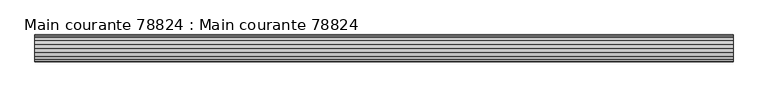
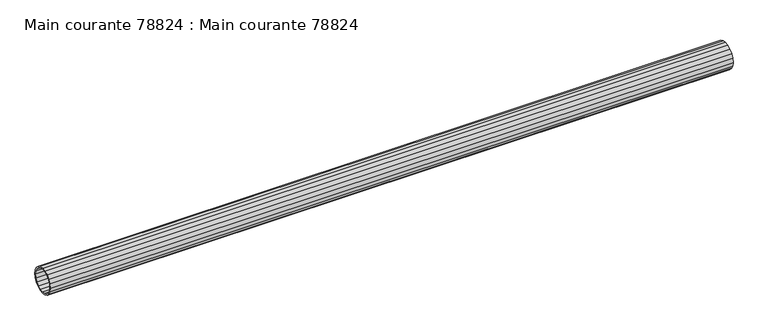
"""IFC4 building model written with IfcOpenShell, lengths in millimetres: beam geometry, Main courante 78824 : Main courante 78824."""

from ifc_helpers import new_model, si_unit, frame, origin, place, context, project, spatial, polyline, outline, extrude, source, transform, mapped, element, save


def main_courante_78824_main_courante_78824_5afea3ef(model_context):
    return source(origin(), model_context, "Body", "SweptSolid", [
        extrude(outline(polyline([(-24939.3127604, 8787.9680149), (-24931.85, 8789.15), (-24924.3872396, 8787.9680149), (-24917.6549862, 8784.5377604), (-24912.3122396, 8779.1950138), (-24908.8819851, 8772.4627604), (-24907.7, 8765.0), (-24908.8819851, 8757.5372396), (-24912.3122396, 8750.8049862), (-24917.6549862, 8745.4622396), (-24924.3872396, 8742.0319851), (-24931.85, 8740.85), (-24939.3127604, 8742.0319851), (-24946.0450138, 8745.4622396), (-24951.3877604, 8750.8049862), (-24954.8180149, 8757.5372396), (-24956.0, 8765.0), (-24954.8180149, 8772.4627604), (-24951.3877604, 8779.1950138), (-24946.0450138, 8784.5377604), (-24939.3127604, 8787.9680149)]), holes=[polyline([(-24911.2596264, 8771.6902179), (-24914.3347821, 8777.7255507), (-24919.1244493, 8782.5152179), (-24925.1597821, 8785.5903736), (-24931.85, 8786.65), (-24938.5402179, 8785.5903736), (-24944.5755507, 8782.5152179), (-24949.3652179, 8777.7255507), (-24952.4403736, 8771.6902179), (-24953.5, 8765.0), (-24952.4403736, 8758.3097821), (-24949.3652179, 8752.2744493), (-24944.5755507, 8747.4847821), (-24938.5402179, 8744.4096264), (-24931.85, 8743.35), (-24925.1597821, 8744.4096264), (-24919.1244493, 8747.4847821), (-24914.3347821, 8752.2744493), (-24911.2596264, 8758.3097821), (-24910.2, 8765.0), (-24911.2596264, 8771.6902179)])]), frame((3754.4999999, 0.0, 0.0), z_axis=(1.0, 0.0, 0.0), x_axis=(0.0, 1.0, 0.0)), (0.0, 0.0, 1.0), 1249.5),
    ])


if __name__ == "__main__":
    model = new_model("IFC4")
    model_context = context("Model", 3, world=origin())
    ifc_project = project(units=[si_unit("LENGTHUNIT", "METRE", prefix="MILLI")], contexts=[model_context])
    site = spatial("IfcSite", under=ifc_project)
    building = spatial("IfcBuilding", under=site)
    placement = place(None, origin())
    main_courante_78824_main_courante_78824_shape = main_courante_78824_main_courante_78824_5afea3ef(model_context)
    element("IfcBeam", 1, ObjectType="Main courante 78824 : Main courante 78824", at=placement, inside=building, context=model_context, shape_type="MappedRepresentation", body=[
        mapped(main_courante_78824_main_courante_78824_shape, transform((0.0, 0.0, 0.0), x_axis=(1.0, 0.0, 0.0), y_axis=(0.0, 1.0, 0.0), z_axis=(0.0, 0.0, 1.0))),
    ])
    save(model, "model.ifc")
